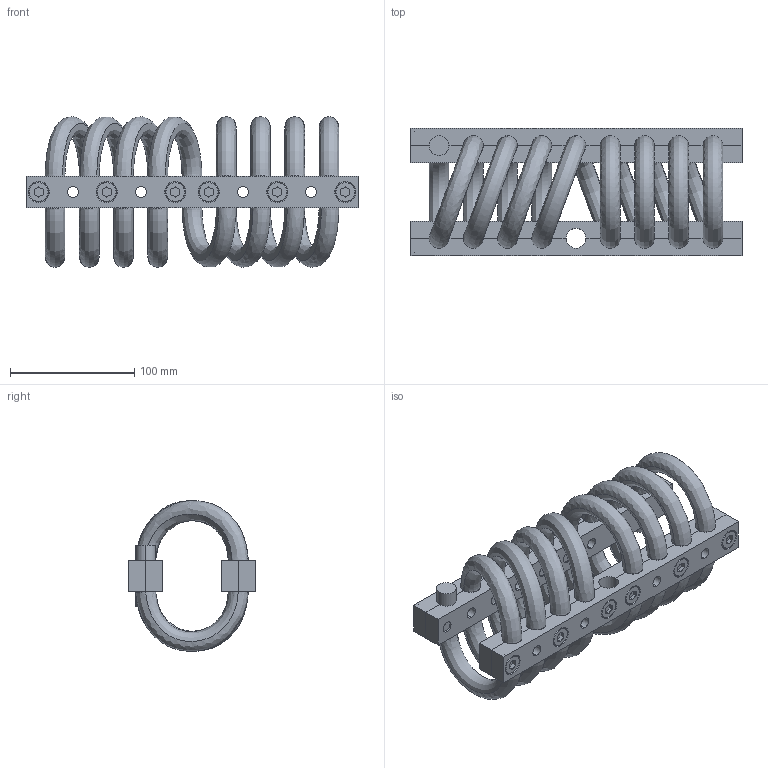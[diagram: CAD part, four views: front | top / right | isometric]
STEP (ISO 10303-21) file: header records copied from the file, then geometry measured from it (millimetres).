
FILE_DESCRIPTION (( 'STEP AP214' ), '1' );
FILE_NAME ('WR20-400-8DM.STEP', '2018-12-07T10:10:37', ( 'user' ), ( 'Microsoft' ), 'SwSTEP 2.0', 'SolidWorks 2016', '' );
FILE_SCHEMA (( 'AUTOMOTIVE_DESIGN' ));
Length unit declared in the file: millimetre
Products named in the file (1): WR20-400-8DM
Bounding box: 266.7 x 102 x 120.99 mm (x, y, z)
Volume: 781615.5 mm3; surface area: 250834.7 mm2
Topology: 34 solids, 34 shells, 672 faces, 1546 edges, 978 vertices
Faces by surface type: plane 300, cylinder 266, cone 72, bspline 34
Entity records: 36048 total; most frequent: CARTESIAN_POINT 19252, DIRECTION 3188, ORIENTED_EDGE 3092, EDGE_CURVE 1546, AXIS2_PLACEMENT_3D 1167, VERTEX_POINT 978, LINE 854, VECTOR 854
